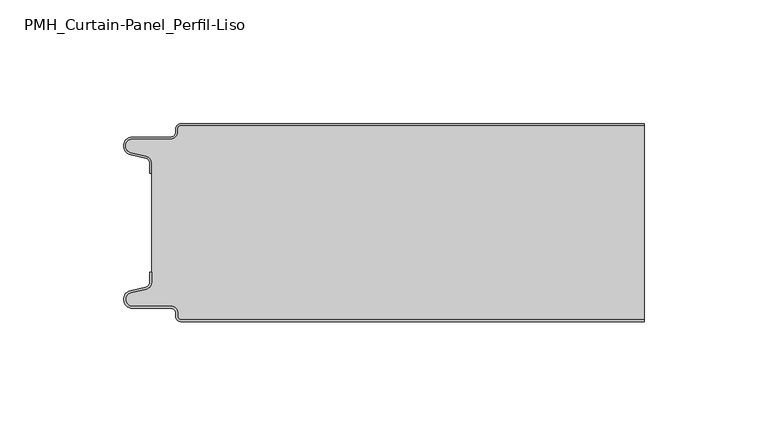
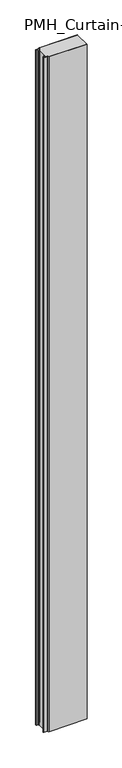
"""IFC4 building model written with IfcOpenShell, lengths in millimetres: plate geometry, PMH_Curtain-Panel_Perfil-Liso : ACH_PMH_Panel-Acústico-Sectorización_80M."""

from ifc_helpers import new_model, si_unit, point, frame_2d, origin, origin_with_axes, place, context, project, spatial, polyline, circle_curve, trimmed, segment, composite_curve, outline, extrude, source, transform, mapped, element, save


def pmh_curtain_panel_perfil_liso_81161288(model_context):
    return source(origin(), model_context, "Body", "SweptSolid", [
        extrude(outline(composite_curve([segment(polyline([(-87.4, 0.8), (100.0, 0.8), (100.0, 0.0), (-87.4, 0.0)]), True, "CONTINUOUS"), segment(trimmed(circle_curve(frame_2d((-87.4, 2.0)), 2.0), [point((-87.4, 0.0))], [point((-89.4, 2.0))], False, "CARTESIAN"), True, "CONTINUOUS"), segment(polyline([(-89.4, 2.0), (-89.4, 3.4)]), True, "CONTINUOUS"), segment(trimmed(circle_curve(frame_2d((-91.4, 3.4)), 2.0), [point((-89.4, 3.4))], [point((-91.4, 5.4))], True, "CARTESIAN"), True, "CONTINUOUS"), segment(polyline([(-91.4, 5.4), (-106.9, 5.4)]), True, "CONTINUOUS"), segment(trimmed(circle_curve(frame_2d((-106.9, 9.0)), 3.6), [point((-106.9, 5.4))], [point((-107.7098239, 12.5077322))], False, "CARTESIAN"), True, "CONTINUOUS"), segment(polyline([(-107.7098239, 12.5077322), (-101.5500979, 13.929817)]), True, "CONTINUOUS"), segment(trimmed(circle_curve(frame_2d((-102.0, 15.878557)), 2.0), [point((-101.5500979, 13.929817))], [point((-100.0, 15.878557))], True, "CARTESIAN"), True, "CONTINUOUS"), segment(polyline([(-100.0, 15.878557), (-100.0, 20.0), (-99.2, 20.0), (-99.2, 15.878557)]), True, "CONTINUOUS"), segment(trimmed(circle_curve(frame_2d((-102.0, 15.878557)), 2.8), [point((-99.2, 15.878557))], [point((-101.370137, 13.1503208))], False, "CARTESIAN"), True, "CONTINUOUS"), segment(polyline([(-101.370137, 13.1503208), (-107.529863, 11.728236)]), True, "CONTINUOUS"), segment(trimmed(circle_curve(frame_2d((-106.9, 9.0)), 2.8), [point((-107.529863, 11.728236))], [point((-106.9, 6.2))], True, "CARTESIAN"), True, "CONTINUOUS"), segment(polyline([(-106.9, 6.2), (-91.4, 6.2)]), True, "CONTINUOUS"), segment(trimmed(circle_curve(frame_2d((-91.4, 3.4)), 2.8), [point((-91.4, 6.2))], [point((-88.6, 3.4))], False, "CARTESIAN"), True, "CONTINUOUS"), segment(polyline([(-88.6, 3.4), (-88.6, 2.0)]), True, "CONTINUOUS"), segment(trimmed(circle_curve(frame_2d((-87.4, 2.0)), 1.2), [point((-88.6, 2.0))], [point((-87.4, 0.8))], True, "CARTESIAN"), True, "CONTINUOUS")], self_intersect=False)), origin_with_axes(), (0.0, 0.0, 1.0), 3500.0),
        extrude(outline(composite_curve([segment(trimmed(circle_curve(frame_2d((-102.0, 64.1214426)), 2.8), [point((-99.2, 64.1214426))], [point((-101.370137, 66.8496788))], True, "CARTESIAN"), True, "CONTINUOUS"), segment(polyline([(-101.370137, 66.8496788), (-107.5298631, 68.2717638)]), True, "CONTINUOUS"), segment(trimmed(circle_curve(frame_2d((-106.9, 71.0)), 2.8), [point((-107.5298631, 68.2717638))], [point((-106.9, 73.8))], False, "CARTESIAN"), True, "CONTINUOUS"), segment(polyline([(-106.9, 73.8), (-91.4000001, 73.8)]), True, "CONTINUOUS"), segment(trimmed(circle_curve(frame_2d((-91.4000001, 76.6)), 2.8), [point((-91.4000001, 73.8))], [point((-88.6000001, 76.6))], True, "CARTESIAN"), True, "CONTINUOUS"), segment(polyline([(-88.6000001, 76.6), (-88.6000001, 78.0)]), True, "CONTINUOUS"), segment(trimmed(circle_curve(frame_2d((-87.4000001, 78.0)), 1.2), [point((-88.6000001, 78.0))], [point((-87.4000001, 79.2))], False, "CARTESIAN"), True, "CONTINUOUS"), segment(polyline([(-87.4000001, 79.2), (100.0, 79.2), (100.0, 0.8), (-87.4000001, 0.8)]), True, "CONTINUOUS"), segment(trimmed(circle_curve(frame_2d((-87.4000001, 2.0)), 1.2), [point((-87.4000001, 0.8))], [point((-88.6000001, 2.0))], False, "CARTESIAN"), True, "CONTINUOUS"), segment(polyline([(-88.6000001, 2.0), (-88.6000001, 3.4)]), True, "CONTINUOUS"), segment(trimmed(circle_curve(frame_2d((-91.4000001, 3.4)), 2.8), [point((-88.6000001, 3.4))], [point((-91.4000001, 6.2))], True, "CARTESIAN"), True, "CONTINUOUS"), segment(polyline([(-91.4000001, 6.2), (-106.9, 6.2)]), True, "CONTINUOUS"), segment(trimmed(circle_curve(frame_2d((-106.9, 9.0)), 2.8), [point((-106.9, 6.2))], [point((-107.5298631, 11.7282362))], False, "CARTESIAN"), True, "CONTINUOUS"), segment(polyline([(-107.5298631, 11.7282362), (-101.370137, 13.1503212)]), True, "CONTINUOUS"), segment(trimmed(circle_curve(frame_2d((-102.0, 15.8785573)), 2.8), [point((-101.370137, 13.1503212))], [point((-99.2, 15.8785573))], True, "CARTESIAN"), True, "CONTINUOUS"), segment(polyline([(-99.2, 15.8785573), (-99.2, 64.1214426)]), True, "CONTINUOUS")], self_intersect=False)), origin_with_axes(), (0.0, 0.0, 1.0), 3500.0),
        extrude(outline(composite_curve([segment(polyline([(-87.4, 80.0), (100.0, 80.0), (100.0, 79.2), (-87.4, 79.2)]), True, "CONTINUOUS"), segment(trimmed(circle_curve(frame_2d((-87.4, 78.0)), 1.2), [point((-87.4, 79.2))], [point((-88.6, 78.0))], True, "CARTESIAN"), True, "CONTINUOUS"), segment(polyline([(-88.6, 78.0), (-88.6, 76.6)]), True, "CONTINUOUS"), segment(trimmed(circle_curve(frame_2d((-91.4, 76.6)), 2.8), [point((-88.6, 76.6))], [point((-91.4, 73.8))], False, "CARTESIAN"), True, "CONTINUOUS"), segment(polyline([(-91.4, 73.8), (-106.9, 73.8)]), True, "CONTINUOUS"), segment(trimmed(circle_curve(frame_2d((-106.9, 71.0)), 2.8), [point((-106.9, 73.8))], [point((-107.529863, 68.2717638))], True, "CARTESIAN"), True, "CONTINUOUS"), segment(polyline([(-107.529863, 68.2717638), (-101.370137, 66.849679)]), True, "CONTINUOUS"), segment(trimmed(circle_curve(frame_2d((-102.0, 64.121443)), 2.8), [point((-101.370137, 66.849679))], [point((-99.2, 64.121443))], False, "CARTESIAN"), True, "CONTINUOUS"), segment(polyline([(-99.2, 64.121443), (-99.2, 60.0), (-100.0, 60.0), (-100.0, 64.121443)]), True, "CONTINUOUS"), segment(trimmed(circle_curve(frame_2d((-102.0, 64.121443)), 2.0), [point((-100.0, 64.121443))], [point((-101.5500978, 66.0701831))], True, "CARTESIAN"), True, "CONTINUOUS"), segment(polyline([(-101.5500978, 66.0701831), (-107.7098239, 67.492268)]), True, "CONTINUOUS"), segment(trimmed(circle_curve(frame_2d((-106.9, 71.0)), 3.6), [point((-107.7098239, 67.492268))], [point((-106.9, 74.6))], False, "CARTESIAN"), True, "CONTINUOUS"), segment(polyline([(-106.9, 74.6), (-91.4, 74.6)]), True, "CONTINUOUS"), segment(trimmed(circle_curve(frame_2d((-91.4, 76.6)), 2.0), [point((-91.4, 74.6))], [point((-89.4, 76.6))], True, "CARTESIAN"), True, "CONTINUOUS"), segment(polyline([(-89.4, 76.6), (-89.4, 78.0)]), True, "CONTINUOUS"), segment(trimmed(circle_curve(frame_2d((-87.4, 78.0)), 2.0), [point((-89.4, 78.0))], [point((-87.4, 80.0))], False, "CARTESIAN"), True, "CONTINUOUS")], self_intersect=False)), origin_with_axes(), (0.0, 0.0, 1.0), 3500.0),
    ])


if __name__ == "__main__":
    model = new_model("IFC4")
    model_context = context("Model", 3, world=origin())
    ifc_project = project(units=[si_unit("LENGTHUNIT", "METRE", prefix="MILLI")], contexts=[model_context])
    site = spatial("IfcSite", under=ifc_project)
    building = spatial("IfcBuilding", under=site)
    placement = place(None, origin())
    pmh_curtain_panel_perfil_liso_shape = pmh_curtain_panel_perfil_liso_81161288(model_context)
    element("IfcPlate", 1, ObjectType="PMH_Curtain-Panel_Perfil-Liso : ACH_PMH_Panel-Acústico-Sectorización_80M", at=placement, inside=building, context=model_context, shape_type="MappedRepresentation", body=[
        mapped(pmh_curtain_panel_perfil_liso_shape, transform((0.0, 0.0, 0.0), x_axis=(1.0, 0.0, 0.0), y_axis=(0.0, 1.0, 0.0), z_axis=(0.0, 0.0, 1.0))),
    ])
    save(model, "model.ifc")
